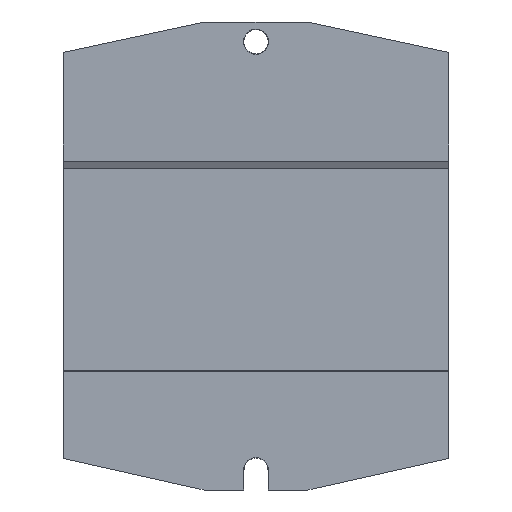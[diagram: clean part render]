
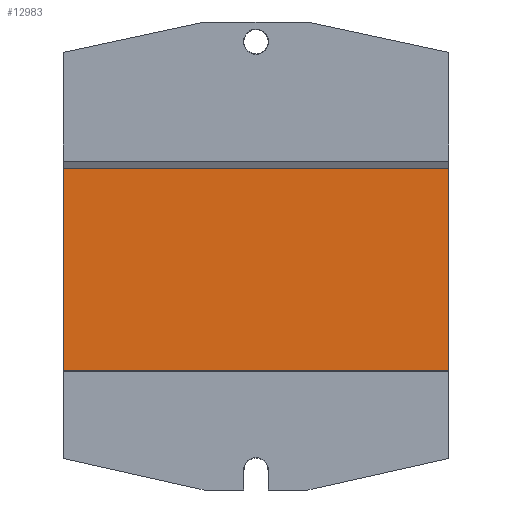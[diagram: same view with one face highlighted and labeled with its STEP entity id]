
A CAD part, front view. The second image highlights one B-rep face of the part: STEP entity #12983.
In plain terms, the highlighted planar face has unit normal (0, -1, 0).
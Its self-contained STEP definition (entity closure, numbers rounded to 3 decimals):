
#2494=DIRECTION('',(-1.,0.,0.));
#2495=VECTOR('',#2494,67.346);
#2496=CARTESIAN_POINT('',(55.547,0.,17.5));
#2497=LINE('',#2496,#2495);
#2498=DIRECTION('',(0.,0.,1.));
#2499=VECTOR('',#2498,35.3);
#2500=CARTESIAN_POINT('',(-11.799,0.,-17.8));
#2501=LINE('',#2500,#2499);
#2502=DIRECTION('',(0.,0.,-1.));
#2503=VECTOR('',#2502,35.3);
#2504=CARTESIAN_POINT('',(55.547,0.,17.5));
#2505=LINE('',#2504,#2503);
#2510=DIRECTION('',(1.,0.,0.));
#2511=VECTOR('',#2510,67.346);
#2512=CARTESIAN_POINT('',(-11.799,0.,-17.8));
#2513=LINE('',#2512,#2511);
#9624=CARTESIAN_POINT('',(55.547,0.,-17.8));
#9625=VERTEX_POINT('',#9624);
#9626=CARTESIAN_POINT('',(55.547,0.,17.5));
#9627=VERTEX_POINT('',#9626);
#9664=CARTESIAN_POINT('',(-11.799,0.,17.5));
#9665=VERTEX_POINT('',#9664);
#9666=CARTESIAN_POINT('',(-11.799,0.,-17.8));
#9667=VERTEX_POINT('',#9666);
#12971=CARTESIAN_POINT('',(0.,0.,0.));
#12972=DIRECTION('',(0.,1.,0.));
#12973=DIRECTION('',(1.,0.,0.));
#12974=AXIS2_PLACEMENT_3D('',#12971,#12972,#12973);
#12975=PLANE('',#12974);
#12976=ORIENTED_EDGE('',*,*,#11984,.T.);
#12977=ORIENTED_EDGE('',*,*,#12956,.F.);
#12978=ORIENTED_EDGE('',*,*,#11922,.T.);
#12980=ORIENTED_EDGE('',*,*,#12979,.F.);
#12981=EDGE_LOOP('',(#12976,#12977,#12978,#12980));
#12982=FACE_OUTER_BOUND('',#12981,.F.);
#11922=EDGE_CURVE('',#9627,#9625,#2505,.T.);
#11984=EDGE_CURVE('',#9667,#9665,#2501,.T.);
#12956=EDGE_CURVE('',#9627,#9665,#2497,.T.);
#12979=EDGE_CURVE('',#9667,#9625,#2513,.T.);
#12983=ADVANCED_FACE('',(#12982),#12975,.F.);
